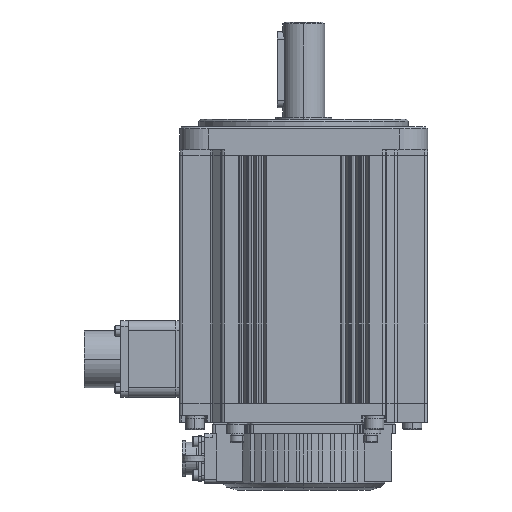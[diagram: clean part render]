
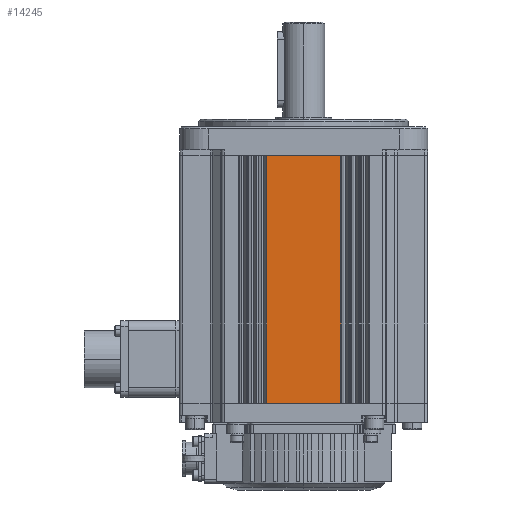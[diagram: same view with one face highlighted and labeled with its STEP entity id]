
A CAD part, front view. The second image highlights one B-rep face of the part: STEP entity #14245.
In plain terms, the highlighted planar face has unit normal (0, -1, 0).
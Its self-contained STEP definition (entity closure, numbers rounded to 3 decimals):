
#2838 = CARTESIAN_POINT ( 'NONE',  ( -19.307, -65., -65. ) ) ;
#3030 = PLANE ( 'NONE',  #27017 ) ;
#5699 = LINE ( 'NONE', #22974, #40575 ) ;
#7834 = DIRECTION ( 'NONE',  ( 0., 0., 1. ) ) ;
#7889 = LINE ( 'NONE', #41573, #17563 ) ;
#11015 = FACE_OUTER_BOUND ( 'NONE', #41057, .T. ) ;
#12482 = LINE ( 'NONE', #2838, #59775 ) ;
#14210 = EDGE_CURVE ( 'NONE', #16841, #60476, #12482, .T. ) ;
#14245 = ADVANCED_FACE ( 'NONE', ( #11015 ), #3030, .F. ) ;
#16841 = VERTEX_POINT ( 'NONE', #26630 ) ;
#17563 = VECTOR ( 'NONE', #37012, 1000. ) ;
#21973 = CARTESIAN_POINT ( 'NONE',  ( 0., -65., -65. ) ) ;
#22205 = EDGE_CURVE ( 'NONE', #48356, #51730, #7889, .T. ) ;
#22974 = CARTESIAN_POINT ( 'NONE',  ( 0., -65., -65. ) ) ;
#24437 = ORIENTED_EDGE ( 'NONE', *, *, #14210, .F. ) ;
#25534 = CARTESIAN_POINT ( 'NONE',  ( 19.307, -65., 65. ) ) ;
#25802 = ORIENTED_EDGE ( 'NONE', *, *, #22205, .T. ) ;
#26427 = CARTESIAN_POINT ( 'NONE',  ( -19.307, -65., 65. ) ) ;
#26630 = CARTESIAN_POINT ( 'NONE',  ( -19.307, -65., -65. ) ) ;
#27017 = AXIS2_PLACEMENT_3D ( 'NONE', #21973, #36213, #7834 ) ;
#27740 = DIRECTION ( 'NONE',  ( -1., 0., 0. ) ) ;
#32746 = EDGE_CURVE ( 'NONE', #51730, #60476, #35022, .T. ) ;
#35022 = LINE ( 'NONE', #55663, #46093 ) ;
#36010 = DIRECTION ( 'NONE',  ( 0., 0., 1. ) ) ;
#36213 = DIRECTION ( 'NONE',  ( 0., 1., 0. ) ) ;
#37012 = DIRECTION ( 'NONE',  ( 0., 0., 1. ) ) ;
#39739 = ORIENTED_EDGE ( 'NONE', *, *, #32746, .T. ) ;
#40575 = VECTOR ( 'NONE', #27740, 1000. ) ;
#41057 = EDGE_LOOP ( 'NONE', ( #39739, #24437, #56721, #25802 ) ) ;
#41211 = EDGE_CURVE ( 'NONE', #48356, #16841, #5699, .T. ) ;
#41573 = CARTESIAN_POINT ( 'NONE',  ( 19.307, -65., -65. ) ) ;
#41846 = CARTESIAN_POINT ( 'NONE',  ( 19.307, -65., -65. ) ) ;
#46093 = VECTOR ( 'NONE', #60193, 1000. ) ;
#48356 = VERTEX_POINT ( 'NONE', #41846 ) ;
#51730 = VERTEX_POINT ( 'NONE', #25534 ) ;
#55663 = CARTESIAN_POINT ( 'NONE',  ( 0., -65., 65. ) ) ;
#56721 = ORIENTED_EDGE ( 'NONE', *, *, #41211, .F. ) ;
#59775 = VECTOR ( 'NONE', #36010, 1000. ) ;
#60193 = DIRECTION ( 'NONE',  ( -1., 0., 0. ) ) ;
#60476 = VERTEX_POINT ( 'NONE', #26427 ) ;
